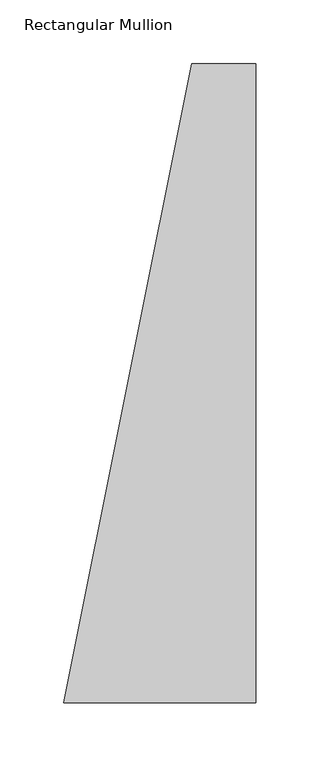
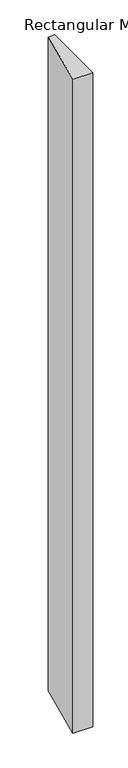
"""IFC4 building model written with IfcOpenShell, lengths in millimetres: member geometry, Rectangular Mullion : 500(350+150)x150x50mm."""

from ifc_helpers import new_model, si_unit, frame, origin, place, context, project, spatial, polyline, outline, extrude, source, transform, mapped, element, save


def rectangular_mullion_32e8c4a9(model_context):
    return source(origin(), model_context, "Body", "SweptSolid", [
        extrude(outline(polyline([(0.0, 150.0), (0.0, -350.0), (-150.0, -350.0), (-50.0, 150.0), (0.0, 150.0)])), frame((0.0, 0.0, -5250.0), z_axis=(0.0, 0.0, 1.0), x_axis=(1.0, 0.0, 0.0)), (0.0, 0.0, 1.0), 5250.0),
    ])


if __name__ == "__main__":
    model = new_model("IFC4")
    model_context = context("Model", 3, world=origin())
    ifc_project = project(units=[si_unit("LENGTHUNIT", "METRE", prefix="MILLI")], contexts=[model_context])
    site = spatial("IfcSite", under=ifc_project)
    building = spatial("IfcBuilding", under=site)
    placement = place(None, origin())
    rectangular_mullion_shape = rectangular_mullion_32e8c4a9(model_context)
    element("IfcMember", 1, ObjectType="Rectangular Mullion : 500(350+150)x150x50mm", at=placement, inside=building, context=model_context, shape_type="MappedRepresentation", body=[
        mapped(rectangular_mullion_shape, transform((0.0, 0.0, 0.0), x_axis=(1.0, 0.0, 0.0), y_axis=(0.0, 1.0, 0.0), z_axis=(0.0, 0.0, 1.0))),
    ])
    save(model, "model.ifc")
